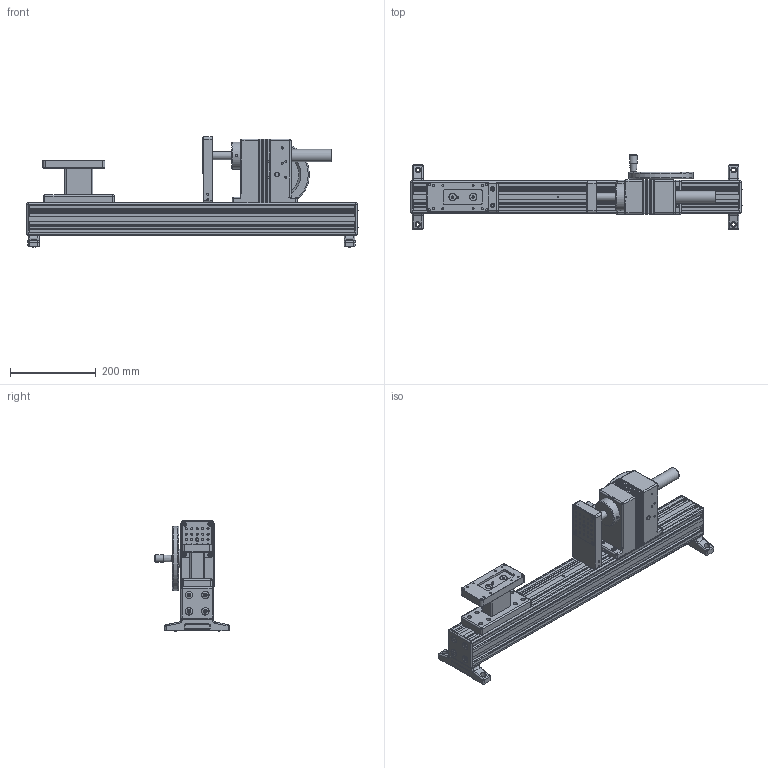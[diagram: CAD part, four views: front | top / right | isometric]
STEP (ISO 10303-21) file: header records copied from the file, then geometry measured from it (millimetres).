
FILE_DESCRIPTION((''),'2;1');
FILE_NAME('F:\CAD files\Itr\3D MARKETING MODELS\MANUAL TEST STANDS\TSF\TSFH.stp','2017-06-21T15:26:12',('mlampen'),(''),'Autodesk Inventor 2010','Autodesk Inventor 2010','');
FILE_SCHEMA(('AUTOMOTIVE_DESIGN { 1 0 10303 214 1 1 1 1 }'));
Length unit declared in the file: inch
Products named in the file (4): Assembly1; Part2; Part4; Part6
Assembly tree (3 placements, depth 2):
  Assembly1
    Part2
    Part4
    Part6
Bounding box: 776.12 x 175.25 x 258.7 mm (x, y, z)
Volume: 4489036.9 mm3; surface area: 1026451.2 mm2
Topology: 27 solids, 31 shells, 2184 faces, 5772 edges, 3635 vertices
Faces by surface type: plane 1025, cylinder 534, cone 459, bspline 99, sphere 46, torus 21
Full cylindrical faces by diameter (mm): 1.575 x1, 2.388 x1, 2.921 x5, 3.505 x18, 3.556 x40, 3.988 x2, 4.039 x9, 4.166 x8, 4.75 x1, 4.826 x31, 5.207 x4, 5.334 x2, 5.387 x7, 5.74 x2, 6.35 x12, 6.528 x4, 7.214 x4, 7.925 x4, 7.938 x1, 8.001 x2, 8.331 x8, 8.382 x9, 8.636 x4, 9.525 x14, 9.931 x6, 9.982 x1, 9.987 x1, 10.033 x4, 10.16 x4, 11.125 x1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
Entity records: 67824 total; most frequent: CARTESIAN_POINT 18603, ORIENTED_EDGE 10384, DIRECTION 9778, EDGE_CURVE 5192, AXIS2_PLACEMENT_3D 3717, VERTEX_POINT 3488, EDGE_LOOP 2834, VECTOR 2344
